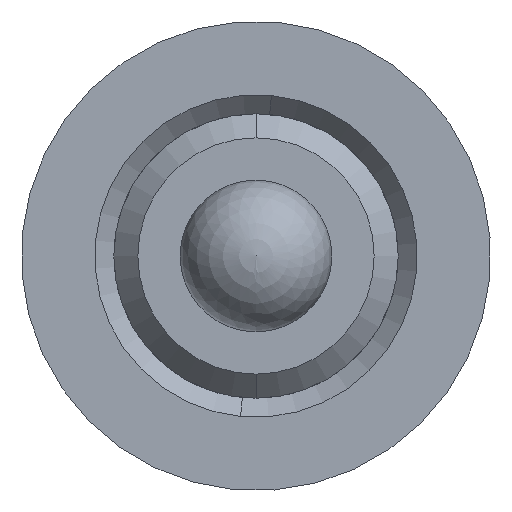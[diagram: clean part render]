
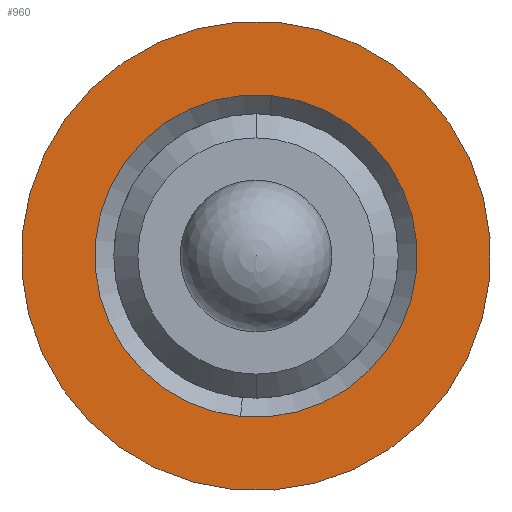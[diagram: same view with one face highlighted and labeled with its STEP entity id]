
A CAD part, left-side view. The second image highlights one B-rep face of the part: STEP entity #960.
In plain terms, the highlighted planar face has unit normal (-1, 0, 0).
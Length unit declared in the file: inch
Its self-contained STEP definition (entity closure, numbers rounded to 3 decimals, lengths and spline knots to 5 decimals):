
#4 = FACE_BOUND ( 'NONE', #780, .T. ) ;
#18 = EDGE_CURVE ( 'NONE', #174, #858, #1137, .T. ) ;
#104 = DIRECTION ( 'NONE',  ( 0., 0.995, 0.096 ) ) ;
#108 = DIRECTION ( 'NONE',  ( 1., 0., 0. ) ) ;
#111 = CARTESIAN_POINT ( 'NONE',  ( 0.22364, 0.57197, 0.95344 ) ) ;
#174 = VERTEX_POINT ( 'NONE', #1310 ) ;
#198 = AXIS2_PLACEMENT_3D ( 'NONE', #629, #497, #525 ) ;
#305 = CARTESIAN_POINT ( 'NONE',  ( 0.22364, 0.56556, 1.02007 ) ) ;
#365 = ORIENTED_EDGE ( 'NONE', *, *, #1418, .T. ) ;
#435 = CIRCLE ( 'NONE', #198, 0.09744 ) ;
#490 = ORIENTED_EDGE ( 'NONE', *, *, #986, .T. ) ;
#497 = DIRECTION ( 'NONE',  ( -1., 0., 0. ) ) ;
#516 = DIRECTION ( 'NONE',  ( 1., 0., 0. ) ) ;
#525 = DIRECTION ( 'NONE',  ( 0., -0.995, -0.096 ) ) ;
#570 = EDGE_LOOP ( 'NONE', ( #1282, #490 ) ) ;
#588 = AXIS2_PLACEMENT_3D ( 'NONE', #601, #516, #1033 ) ;
#601 = CARTESIAN_POINT ( 'NONE',  ( 0.22364, 0.66897, 0.96278 ) ) ;
#629 = CARTESIAN_POINT ( 'NONE',  ( 0.22364, 0.57197, 0.95344 ) ) ;
#717 = AXIS2_PLACEMENT_3D ( 'NONE', #1136, #1160, #1143 ) ;
#780 = EDGE_LOOP ( 'NONE', ( #365, #1460 ) ) ;
#784 = VERTEX_POINT ( 'NONE', #1036 ) ;
#792 = VERTEX_POINT ( 'NONE', #305 ) ;
#858 = VERTEX_POINT ( 'NONE', #1446 ) ;
#890 = PLANE ( 'NONE',  #588 ) ;
#924 = CIRCLE ( 'NONE', #1448, 0.06693 ) ;
#960 = ADVANCED_FACE ( 'NONE', ( #4, #1316 ), #890, .F. ) ;
#986 = EDGE_CURVE ( 'NONE', #858, #174, #435, .T. ) ;
#1007 = AXIS2_PLACEMENT_3D ( 'NONE', #1256, #1245, #1242 ) ;
#1033 = DIRECTION ( 'NONE',  ( 0., 0.995, 0.096 ) ) ;
#1036 = CARTESIAN_POINT ( 'NONE',  ( 0.22364, 0.57839, 0.88682 ) ) ;
#1070 = CIRCLE ( 'NONE', #717, 0.06693 ) ;
#1136 = CARTESIAN_POINT ( 'NONE',  ( 0.22364, 0.57197, 0.95344 ) ) ;
#1137 = CIRCLE ( 'NONE', #1007, 0.09744 ) ;
#1143 = DIRECTION ( 'NONE',  ( 0., 0.995, 0.096 ) ) ;
#1151 = EDGE_CURVE ( 'NONE', #784, #792, #1070, .T. ) ;
#1160 = DIRECTION ( 'NONE',  ( 1., 0., 0. ) ) ;
#1242 = DIRECTION ( 'NONE',  ( 0., -0.995, -0.096 ) ) ;
#1245 = DIRECTION ( 'NONE',  ( -1., 0., 0. ) ) ;
#1256 = CARTESIAN_POINT ( 'NONE',  ( 0.22364, 0.57197, 0.95344 ) ) ;
#1282 = ORIENTED_EDGE ( 'NONE', *, *, #18, .T. ) ;
#1310 = CARTESIAN_POINT ( 'NONE',  ( 0.22364, 0.47498, 0.94411 ) ) ;
#1316 = FACE_OUTER_BOUND ( 'NONE', #570, .T. ) ;
#1418 = EDGE_CURVE ( 'NONE', #792, #784, #924, .T. ) ;
#1446 = CARTESIAN_POINT ( 'NONE',  ( 0.22364, 0.66897, 0.96278 ) ) ;
#1448 = AXIS2_PLACEMENT_3D ( 'NONE', #111, #108, #104 ) ;
#1460 = ORIENTED_EDGE ( 'NONE', *, *, #1151, .T. ) ;
